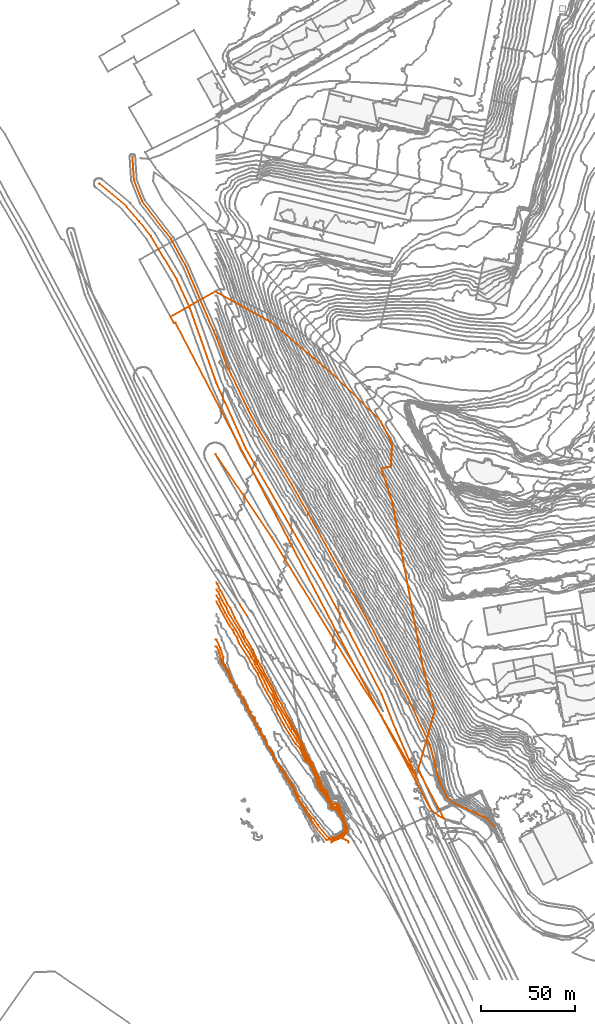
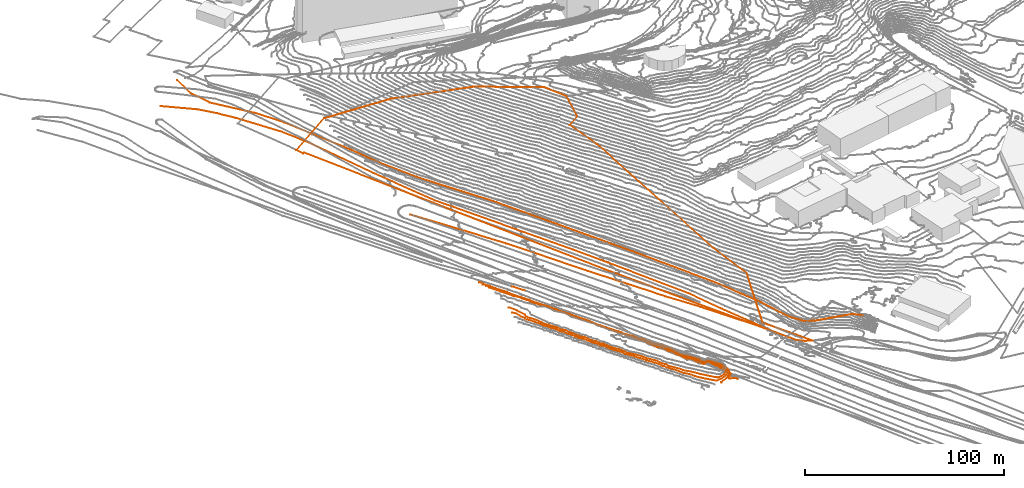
# Not in any storey, part 100 of 419: 9 proxies.
"""IFC2X3 model written with IfcOpenShell, lengths in metres."""

from ifc_helpers import new_model, entity, si_unit, frame, origin_with_axes, place, context, subcontext, project, element, save


model = new_model("IFC2X3")

# Units and contexts
model_context = context("Model", 3, precision=1e-05, world=origin_with_axes())
body_context = subcontext(model_context, "Body", "Model", "MODEL_VIEW")
ifc_project = project(units=[si_unit("AREAUNIT", "SQUARE_METRE"), si_unit("LENGTHUNIT", "METRE")], contexts=[model_context])

# Proxies
proxy_1_placement = place(None, frame((-0.4079795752, 205.1976909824, 4.3), z_axis=(0.0, 0.0, 1.0), x_axis=(1.0, 0.0, 0.0)))
element("IfcBuildingElementProxy", 1, at=proxy_1_placement, Name="Route 145", ObjectType="NOTDEFINED", context=body_context, shape_type="GeometricCurveSet", body=[
    entity("IfcGeometricCurveSet", [entity("IfcPolyline", [entity("IfcCartesianPoint", [107.7, -173.3999999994, -3.0]), entity("IfcCartesianPoint", [88.2, -139.2000000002, -3.2]), entity("IfcCartesianPoint", [77.7, -122.5999999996, -3.2]), entity("IfcCartesianPoint", [54.5, -84.7000000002, -2.5]), entity("IfcCartesianPoint", [30.1, -44.5, -1.3]), entity("IfcCartesianPoint", [0.0, 0.0, 0.0])])]),
])
proxy_2_placement = place(None, frame((-44.6079795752, 363.1976909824, 6.4), z_axis=(0.0, 0.0, 1.0), x_axis=(1.0, 0.0, 0.0)))
element("IfcBuildingElementProxy", 2, at=proxy_2_placement, Name="Route 243", ObjectType="NOTDEFINED", context=body_context, shape_type="GeometricCurveSet", body=[
    entity("IfcGeometricCurveSet", [entity("IfcPolyline", [entity("IfcCartesianPoint", [192.7999999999, -356.5, 4.3]), entity("IfcCartesianPoint", [188.7999999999, -352.0999999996, 3.9]), entity("IfcCartesianPoint", [171.7999999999, -344.2999999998, 1.0]), entity("IfcCartesianPoint", [167.5, -340.8999999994, 0.2]), entity("IfcCartesianPoint", [163.2999999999, -332.3999999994, -0.7]), entity("IfcCartesianPoint", [158.2999999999, -312.7000000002, -1.9]), entity("IfcCartesianPoint", [153.2999999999, -302.0999999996, -1.6]), entity("IfcCartesianPoint", [146.6, -287.5, -1.1]), entity("IfcCartesianPoint", [125.0, -246.0, -0.6]), entity("IfcCartesianPoint", [84.8999999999, -174.2000000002, 1.0]), entity("IfcCartesianPoint", [67.7, -145.8999999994, 1.0]), entity("IfcCartesianPoint", [61.3999999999, -134.2000000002, 0.6]), entity("IfcCartesianPoint", [50.2, -110.5999999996, 0.4]), entity("IfcCartesianPoint", [45.0, -96.7000000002, 0.3]), entity("IfcCartesianPoint", [28.6, -58.3999999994, -0.5]), entity("IfcCartesianPoint", [20.5, -43.5, -1.0]), entity("IfcCartesianPoint", [5.2999999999, -23.7999999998, -1.1]), entity("IfcCartesianPoint", [0.7999999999, -12.3999999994, -0.7]), entity("IfcCartesianPoint", [0.0, 0.0, 0.0])])]),
])
proxy_3_placement = place(None, frame((12.5920204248, 125.0976909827, 4.1), z_axis=(0.0, 0.0, 1.0), x_axis=(1.0, 0.0, 0.0)))
element("IfcBuildingElementProxy", 3, at=proxy_3_placement, Name="Route 259", ObjectType="NOTDEFINED", context=body_context, shape_type="GeometricCurveSet", body=[
    entity("IfcGeometricCurveSet", [entity("IfcPolyline", [entity("IfcCartesianPoint", [3.9, -6.1000000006, -0.2]), entity("IfcCartesianPoint", [0.0, 0.0, 0.0])])]),
])
proxy_4_placement = place(None, frame((-62.4079795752, 349.0976909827, 5.3), z_axis=(0.0, 0.0, 1.0), x_axis=(1.0, 0.0, 0.0)))
element("IfcBuildingElementProxy", 4, at=proxy_4_placement, Name="Route 343", ObjectType="NOTDEFINED", context=body_context, shape_type="GeometricCurveSet", body=[
    entity("IfcGeometricCurveSet", [entity("IfcPolyline", [entity("IfcCartesianPoint", [169.7, -317.2999999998, -4.0]), entity("IfcCartesianPoint", [158.1, -290.9000000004, -3.4]), entity("IfcCartesianPoint", [150.4, -271.7000000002, -3.1]), entity("IfcCartesianPoint", [133.5, -239.1000000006, -2.5]), entity("IfcCartesianPoint", [118.1, -210.6000000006, -1.8]), entity("IfcCartesianPoint", [78.0, -140.7999999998, 0.2]), entity("IfcCartesianPoint", [62.5, -106.1000000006, 1.3]), entity("IfcCartesianPoint", [48.3, -66.0, 0.6]), entity("IfcCartesianPoint", [41.2, -50.6000000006, 0.5]), entity("IfcCartesianPoint", [27.6, -28.0, 0.1]), entity("IfcCartesianPoint", [21.3, -19.9000000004, 0.2]), entity("IfcCartesianPoint", [14.6, -12.2000000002, 0.3]), entity("IfcCartesianPoint", [0.0, 0.0, 0.0])])]),
])
proxy_5_placement = place(None, frame((-24.3679795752, 278.2576909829, 8.0833997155), z_axis=(0.0, 0.0, 1.0), x_axis=(1.0, 0.0, 0.0)))
element("IfcBuildingElementProxy", 5, at=proxy_5_placement, Name="Cadastre 333", ObjectType="NOTDEFINED", context=body_context, shape_type="GeometricCurveSet", body=[
    entity("IfcGeometricCurveSet", [entity("IfcPolyline", [entity("IfcCartesianPoint", [145.71, -267.25, -6.1291497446]), entity("IfcCartesianPoint", [142.33, -265.5099999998, -6.1435996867]), entity("IfcCartesianPoint", [139.41, -263.1200000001, -6.1381996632]), entity("IfcCartesianPoint", [138.96, -262.6600000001, -6.1493996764]), entity("IfcCartesianPoint", [137.0499999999, -259.3500000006, -6.1391587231]), entity("IfcCartesianPoint", [85.59, -162.2999999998, -4.974727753]), entity("IfcCartesianPoint", [2.62, -3.1299999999, -0.6892996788]), entity("IfcCartesianPoint", [1.87, -3.4000000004, -0.7351996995]), entity("IfcCartesianPoint", [0.0, 0.0, 0.0]), entity("IfcCartesianPoint", [23.73, 13.3599999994, 2.9734000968]), entity("IfcCartesianPoint", [53.16, -2.9000000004, 14.5035599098]), entity("IfcCartesianPoint", [85.45, -29.9300000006, 26.9580999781]), entity("IfcCartesianPoint", [111.77, -55.46, 33.1515209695]), entity("IfcCartesianPoint", [117.99, -67.54, 32.6147275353]), entity("IfcCartesianPoint", [117.23, -79.71, 28.1260055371]), entity("IfcCartesianPoint", [112.16, -80.7599999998, 25.0662007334]), entity("IfcCartesianPoint", [117.09, -95.7300000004, 22.2285763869]), entity("IfcCartesianPoint", [117.78, -98.1800000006, 21.7934481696]), entity("IfcCartesianPoint", [118.3199999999, -100.04, 21.4766641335]), entity("IfcCartesianPoint", [130.16, -164.0099999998, 9.9749004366]), entity("IfcCartesianPoint", [134.4, -186.9500000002, 5.8360002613]), entity("IfcCartesianPoint", [140.52, -209.9500000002, 2.1697885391]), entity("IfcCartesianPoint", [131.6899999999, -241.0600000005, -6.1054596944]), entity("IfcCartesianPoint", [145.71, -267.25, -6.1291497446])])]),
])
proxy_6_placement = place(None, frame((-0.4079795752, 106.3804492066, 7.0), z_axis=(0.0, 0.0, 1.0), x_axis=(1.0, 0.0, 0.0)))
element("IfcBuildingElementProxy", 6, at=proxy_6_placement, Name="Contour 7.0 m", ObjectType="NOTDEFINED", context=body_context, shape_type="GeometricCurveSet", body=[
    entity("IfcGeometricCurveSet", [entity("IfcPolyline", [entity("IfcCartesianPoint", [0.0, 20.1536054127, 0.0]), entity("IfcCartesianPoint", [0.5, 20.1536054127, 0.0]), entity("IfcCartesianPoint", [7.3541663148, 7.517241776, 0.0]), entity("IfcCartesianPoint", [9.1181818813, 5.517241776, 0.0]), entity("IfcCartesianPoint", [9.8953487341, 3.517241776, 0.0]), entity("IfcCartesianPoint", [11.5, 1.1172421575, 0.0]), entity("IfcCartesianPoint", [12.5, -1.8531282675, 0.0]), entity("IfcCartesianPoint", [17.5, -9.4221522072, 0.0]), entity("IfcCartesianPoint", [20.727272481, -15.482758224, 0.0]), entity("IfcCartesianPoint", [22.5, -17.944296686, 0.0]), entity("IfcCartesianPoint", [25.2358491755, -24.482758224, 0.0]), entity("IfcCartesianPoint", [30.9487179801, -34.482758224, 0.0]), entity("IfcCartesianPoint", [32.1507937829, -37.482758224, 0.0]), entity("IfcCartesianPoint", [36.4166664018, -45.482758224, 0.0]), entity("IfcCartesianPoint", [42.6896554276, -55.482758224, 0.0]), entity("IfcCartesianPoint", [44.7698413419, -57.482758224, 0.0]), entity("IfcCartesianPoint", [47.9403669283, -64.482758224, 0.0]), entity("IfcCartesianPoint", [50.5, -66.779054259, 0.0]), entity("IfcCartesianPoint", [53.5166667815, -73.482758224, 0.0]), entity("IfcCartesianPoint", [54.2913669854, -77.482758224, 0.0]), entity("IfcCartesianPoint", [55.2862593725, -79.482758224, 0.0]), entity("IfcCartesianPoint", [58.5, -83.1560255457, 0.0]), entity("IfcCartesianPoint", [59.5728155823, -85.482758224, 0.0]), entity("IfcCartesianPoint", [61.0433071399, -87.482758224, 0.0]), entity("IfcCartesianPoint", [61.2068963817, -89.482758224, 0.0]), entity("IfcCartesianPoint", [62.5, -90.2198271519, 0.0]), entity("IfcCartesianPoint", [63.5, -89.9358194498, 0.0]), entity("IfcCartesianPoint", [64.1411483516, -90.482758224, 0.0]), entity("IfcCartesianPoint", [66.8675674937, -94.482758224, 0.0]), entity("IfcCartesianPoint", [68.3237082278, -97.482758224, 0.0]), entity("IfcCartesianPoint", [68.731884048, -101.482758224, 0.0]), entity("IfcCartesianPoint", [65.1904759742, -104.482758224, 0.0]), entity("IfcCartesianPoint", [63.5, -105.2996594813, 0.0]), entity("IfcCartesianPoint", [61.5, -105.6913913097, 0.0]), entity("IfcCartesianPoint", [60.4999975, -105.482758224, 0.0]), entity("IfcCartesianPoint", [59.5, -104.728041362, 0.0]), entity("IfcCartesianPoint", [54.5, -98.607758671, 0.0]), entity("IfcCartesianPoint", [52.3070173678, -95.482758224, 0.0]), entity("IfcCartesianPoint", [48.7575759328, -91.482758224, 0.0]), entity("IfcCartesianPoint", [47.7736843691, -89.482758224, 0.0]), entity("IfcCartesianPoint", [44.2844310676, -84.482758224, 0.0]), entity("IfcCartesianPoint", [43.7264152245, -82.482758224, 0.0]), entity("IfcCartesianPoint", [42.7857144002, -81.482758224, 0.0]), entity("IfcCartesianPoint", [41.2499999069, -77.482758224, 0.0]), entity("IfcCartesianPoint", [38.2151163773, -73.482758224, 0.0]), entity("IfcCartesianPoint", [36.7882351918, -70.482758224, 0.0]), entity("IfcCartesianPoint", [34.7356321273, -67.482758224, 0.0]), entity("IfcCartesianPoint", [32.2331787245, -64.482758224, 0.0]), entity("IfcCartesianPoint", [30.0222671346, -59.482758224, 0.0]), entity("IfcCartesianPoint", [27.1883117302, -55.482758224, 0.0]), entity("IfcCartesianPoint", [27.1005916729, -54.482758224, 0.0]), entity("IfcCartesianPoint", [26.0198556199, -52.482758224, 0.0]), entity("IfcCartesianPoint", [25.828947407, -51.482758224, 0.0]), entity("IfcCartesianPoint", [24.5, -50.2932157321, 0.0]), entity("IfcCartesianPoint", [23.5445860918, -47.482758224, 0.0]), entity("IfcCartesianPoint", [22.3169398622, -46.482758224, 0.0]), entity("IfcCartesianPoint", [20.2704917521, -41.482758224, 0.0]), entity("IfcCartesianPoint", [18.257946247, -39.482758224, 0.0]), entity("IfcCartesianPoint", [18.6658032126, -38.482758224, 0.0]), entity("IfcCartesianPoint", [17.5, -37.4757158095, 0.0]), entity("IfcCartesianPoint", [16.9339622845, -35.482758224, 0.0]), entity("IfcCartesianPoint", [15.5362320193, -33.482758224, 0.0]), entity("IfcCartesianPoint", [15.0450642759, -31.482758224, 0.0]), entity("IfcCartesianPoint", [13.1000000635, -29.482758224, 0.0]), entity("IfcCartesianPoint", [12.7959183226, -27.482758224, 0.0]), entity("IfcCartesianPoint", [11.0867768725, -25.482758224, 0.0]), entity("IfcCartesianPoint", [10.2204611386, -23.482758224, 0.0]), entity("IfcCartesianPoint", [8.5, -21.2054473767, 0.0]), entity("IfcCartesianPoint", [8.1125000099, -19.482758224, 0.0]), entity("IfcCartesianPoint", [6.7651515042, -16.482758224, 0.0]), entity("IfcCartesianPoint", [5.0838926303, -13.482758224, 0.0]), entity("IfcCartesianPoint", [4.199999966, -12.482758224, 0.0]), entity("IfcCartesianPoint", [4.0044248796, -11.482758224, 0.0]), entity("IfcCartesianPoint", [4.1623375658, -9.482758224, 0.0]), entity("IfcCartesianPoint", [2.606060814, -4.482758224, 0.0]), entity("IfcCartesianPoint", [0.5, 0.0, 0.0]), entity("IfcCartesianPoint", [0.0, 0.0, 0.0])])]),
])
proxy_7_placement = place(None, frame((-0.4079795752, 102.8245197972, 6.0), z_axis=(0.0, 0.0, 1.0), x_axis=(1.0, 0.0, 0.0)))
element("IfcBuildingElementProxy", 7, at=proxy_7_placement, Name="Contour 6.0 m", ObjectType="NOTDEFINED", context=body_context, shape_type="GeometricCurveSet", body=[
    entity("IfcGeometricCurveSet", [entity("IfcPolyline", [entity("IfcCartesianPoint", [0.0, 27.0481706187, 0.0]), entity("IfcCartesianPoint", [0.5, 27.0481706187, 0.0]), entity("IfcCartesianPoint", [1.7537314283, 25.0731711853, 0.0]), entity("IfcCartesianPoint", [2.9788734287, 22.0731711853, 0.0]), entity("IfcCartesianPoint", [5.1612901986, 18.0731711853, 0.0]), entity("IfcCartesianPoint", [8.5, 12.2667194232, 0.0]), entity("IfcCartesianPoint", [10.683333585, 9.0731711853, 0.0]), entity("IfcCartesianPoint", [15.4137928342, 0.0731711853, 0.0]), entity("IfcCartesianPoint", [17.6250003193, -2.9268288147, 0.0]), entity("IfcCartesianPoint", [19.1612901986, -5.9268288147, 0.0]), entity("IfcCartesianPoint", [20.5, -7.820445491, 0.0]), entity("IfcCartesianPoint", [21.2464791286, -9.9268288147, 0.0]), entity("IfcCartesianPoint", [24.2631580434, -14.9268288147, 0.0]), entity("IfcCartesianPoint", [28.0357142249, -22.9268288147, 0.0]), entity("IfcCartesianPoint", [30.0689654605, -25.9268288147, 0.0]), entity("IfcCartesianPoint", [32.6940299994, -31.9268288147, 0.0]), entity("IfcCartesianPoint", [34.5, -34.6621226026, 0.0]), entity("IfcCartesianPoint", [38.875000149, -42.9268288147, 0.0]), entity("IfcCartesianPoint", [42.7835821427, -48.9268288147, 0.0]), entity("IfcCartesianPoint", [43.62244892, -50.9268288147, 0.0]), entity("IfcCartesianPoint", [45.6130952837, -52.9268288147, 0.0]), entity("IfcCartesianPoint", [46.2777776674, -55.9268288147, 0.0]), entity("IfcCartesianPoint", [47.5620690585, -57.9268288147, 0.0]), entity("IfcCartesianPoint", [48.272058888, -59.9268288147, 0.0]), entity("IfcCartesianPoint", [48.8749998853, -60.9268288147, 0.0]), entity("IfcCartesianPoint", [50.5, -62.1817308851, 0.0]), entity("IfcCartesianPoint", [52.0118482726, -65.9268288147, 0.0]), entity("IfcCartesianPoint", [53.6290323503, -68.9268288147, 0.0]), entity("IfcCartesianPoint", [54.0722222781, -69.9268288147, 0.0]), entity("IfcCartesianPoint", [54.0333333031, -70.9268288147, 0.0]), entity("IfcCartesianPoint", [55.5, -75.0268287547, 0.0]), entity("IfcCartesianPoint", [58.6684211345, -78.9268288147, 0.0]), entity("IfcCartesianPoint", [60.058252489, -81.9268288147, 0.0]), entity("IfcCartesianPoint", [61.4370079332, -83.9268288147, 0.0]), entity("IfcCartesianPoint", [61.9083332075, -85.9268288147, 0.0]), entity("IfcCartesianPoint", [62.5, -86.2328632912, 0.0]), entity("IfcCartesianPoint", [64.0238100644, -85.9268288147, 0.0]), entity("IfcCartesianPoint", [64.5, -85.4005136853, 0.0]), entity("IfcCartesianPoint", [65.5, -88.2179680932, 0.0]), entity("IfcCartesianPoint", [67.4081080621, -90.9268288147, 0.0]), entity("IfcCartesianPoint", [67.4340101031, -91.9268288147, 0.0]), entity("IfcCartesianPoint", [68.6012048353, -93.9268288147, 0.0]), entity("IfcCartesianPoint", [69.2149757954, -97.9268288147, 0.0]), entity("IfcCartesianPoint", [68.5, -99.108646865, 0.0]), entity("IfcCartesianPoint", [65.5, -101.5049537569, 0.0]), entity("IfcCartesianPoint", [62.5, -102.7473416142, 0.0]), entity("IfcCartesianPoint", [59.1470588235, -102.9268288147, 0.0]), entity("IfcCartesianPoint", [53.9181817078, -96.9268288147, 0.0]), entity("IfcCartesianPoint", [51.5, -93.3434955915, 0.0]), entity("IfcCartesianPoint", [50.8863637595, -91.9268288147, 0.0]), entity("IfcCartesianPoint", [48.5, -88.8594131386, 0.0]), entity("IfcCartesianPoint", [45.1325301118, -82.9268288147, 0.0]), entity("IfcCartesianPoint", [43.6856286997, -80.9268288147, 0.0]), entity("IfcCartesianPoint", [42.9621850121, -78.9268288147, 0.0]), entity("IfcCartesianPoint", [42.0975610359, -77.9268288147, 0.0]), entity("IfcCartesianPoint", [41.5666667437, -75.9268288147, 0.0]), entity("IfcCartesianPoint", [40.4716312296, -73.9268288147, 0.0]), entity("IfcCartesianPoint", [37.6337209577, -69.9268288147, 0.0]), entity("IfcCartesianPoint", [36.5, -67.4317794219, 0.0]), entity("IfcCartesianPoint", [35.27297292, -65.9268288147, 0.0]), entity("IfcCartesianPoint", [34.2255813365, -63.9268288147, 0.0]), entity("IfcCartesianPoint", [31.3205128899, -59.9268288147, 0.0]), entity("IfcCartesianPoint", [30.1823104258, -56.9268288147, 0.0]), entity("IfcCartesianPoint", [26.9285714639, -51.9268288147, 0.0]), entity("IfcCartesianPoint", [26.8047337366, -50.9268288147, 0.0]), entity("IfcCartesianPoint", [26.110344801, -49.9268288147, 0.0]), entity("IfcCartesianPoint", [25.3913043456, -47.9268288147, 0.0]), entity("IfcCartesianPoint", [24.2300380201, -46.9268288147, 0.0]), entity("IfcCartesianPoint", [23.6523437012, -44.9268288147, 0.0]), entity("IfcCartesianPoint", [22.0437158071, -42.9268288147, 0.0]), entity("IfcCartesianPoint", [19.7240436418, -37.9268288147, 0.0]), entity("IfcCartesianPoint", [18.0134474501, -35.9268288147, 0.0]), entity("IfcCartesianPoint", [18.1777251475, -34.9268288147, 0.0]), entity("IfcCartesianPoint", [17.0619469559, -33.9268288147, 0.0]), entity("IfcCartesianPoint", [16.5566038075, -31.9268288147, 0.0]), entity("IfcCartesianPoint", [15.0833333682, -29.9268288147, 0.0]), entity("IfcCartesianPoint", [14.6158798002, -27.9268288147, 0.0]), entity("IfcCartesianPoint", [12.7666667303, -25.9268288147, 0.0]), entity("IfcCartesianPoint", [12.3055555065, -23.9268288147, 0.0]), entity("IfcCartesianPoint", [10.5, -21.6541014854, 0.0]), entity("IfcCartesianPoint", [9.9322766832, -19.9268288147, 0.0]), entity("IfcCartesianPoint", [8.2563636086, -17.9268288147, 0.0]), entity("IfcCartesianPoint", [7.6958332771, -15.9268288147, 0.0]), entity("IfcCartesianPoint", [6.1242774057, -12.9268288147, 0.0]), entity("IfcCartesianPoint", [4.5, -10.0853655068, 0.0]), entity("IfcCartesianPoint", [3.4857143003, -8.9268288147, 0.0]), entity("IfcCartesianPoint", [3.2074830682, -7.9268288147, 0.0]), entity("IfcCartesianPoint", [3.3376067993, -6.9268288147, 0.0]), entity("IfcCartesianPoint", [2.2941177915, -4.9268288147, 0.0]), entity("IfcCartesianPoint", [1.6388887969, -1.9268288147, 0.0]), entity("IfcCartesianPoint", [0.5, 0.0, 0.0]), entity("IfcCartesianPoint", [0.0, 0.0, 0.0])])]),
])
proxy_8_placement = place(None, frame((-0.4079795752, 136.7438451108, 4.0), z_axis=(0.0, 0.0, 1.0), x_axis=(1.0, 0.0, 0.0)))
element("IfcBuildingElementProxy", 8, at=proxy_8_placement, Name="Contour 4.0 m", ObjectType="NOTDEFINED", context=body_context, shape_type="GeometricCurveSet", body=[
    entity("IfcGeometricCurveSet", [entity("IfcPolyline", [entity("IfcCartesianPoint", [0.0, 0.0, 0.0]), entity("IfcCartesianPoint", [0.5, 0.0, 0.0]), entity("IfcCartesianPoint", [1.0789478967, -0.8461541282, 0.0]), entity("IfcCartesianPoint", [2.318181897, -3.8461541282, 0.0]), entity("IfcCartesianPoint", [3.1274510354, -4.8461541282, 0.0]), entity("IfcCartesianPoint", [6.172727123, -10.8461541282, 0.0]), entity("IfcCartesianPoint", [8.0862069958, -13.8461541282, 0.0]), entity("IfcCartesianPoint", [10.2931036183, -18.8461541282, 0.0]), entity("IfcCartesianPoint", [14.5447764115, -25.8461541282, 0.0]), entity("IfcCartesianPoint", [15.5, -28.3461521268, 0.0]), entity("IfcCartesianPoint", [19.923912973, -35.8461541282, 0.0]), entity("IfcCartesianPoint", [22.6182797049, -41.8461541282, 0.0]), entity("IfcCartesianPoint", [24.5, -44.6961542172, 0.0]), entity("IfcCartesianPoint", [27.6375001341, -50.8461541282, 0.0]), entity("IfcCartesianPoint", [30.5930231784, -55.8461541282, 0.0]), entity("IfcCartesianPoint", [33.3873240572, -61.8461541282, 0.0]), entity("IfcCartesianPoint", [35.27966088, -64.8461541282, 0.0]), entity("IfcCartesianPoint", [36.1029411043, -66.8461541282, 0.0]), entity("IfcCartesianPoint", [40.5, -74.6497253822, 0.0]), entity("IfcCartesianPoint", [41.5, -77.2847504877, 0.0]), entity("IfcCartesianPoint", [42.7266667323, -78.8461541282, 0.0]), entity("IfcCartesianPoint", [46.7802198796, -86.8461541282, 0.0]), entity("IfcCartesianPoint", [47.3200000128, -88.8461541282, 0.0]), entity("IfcCartesianPoint", [48.9848484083, -91.8461541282, 0.0]), entity("IfcCartesianPoint", [49.7352942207, -93.8461541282, 0.0]), entity("IfcCartesianPoint", [51.3743718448, -95.8461541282, 0.0]), entity("IfcCartesianPoint", [52.9825870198, -99.8461541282, 0.0]), entity("IfcCartesianPoint", [55.172131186, -103.8461541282, 0.0]), entity("IfcCartesianPoint", [55.2338130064, -104.8461541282, 0.0]), entity("IfcCartesianPoint", [55.8566434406, -105.8461541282, 0.0]), entity("IfcCartesianPoint", [56.8059700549, -108.8461541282, 0.0]), entity("IfcCartesianPoint", [57.5, -109.9449196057, 0.0]), entity("IfcCartesianPoint", [59.0061726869, -110.8461541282, 0.0]), entity("IfcCartesianPoint", [60.5, -114.7755659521, 0.0]), entity("IfcCartesianPoint", [62.4199999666, -117.8461541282, 0.0]), entity("IfcCartesianPoint", [62.5, -118.6080582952, 0.0]), entity("IfcCartesianPoint", [62.9848485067, -117.8461541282, 0.0]), entity("IfcCartesianPoint", [63.5, -117.7056582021, 0.0]), entity("IfcCartesianPoint", [65.5, -117.9585135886, 0.0]), entity("IfcCartesianPoint", [66.2678571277, -119.8461541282, 0.0]), entity("IfcCartesianPoint", [66.2948718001, -120.8461541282, 0.0]), entity("IfcCartesianPoint", [67.1653061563, -122.8461541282, 0.0]), entity("IfcCartesianPoint", [67.9220962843, -123.8461541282, 0.0]), entity("IfcCartesianPoint", [68.1678831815, -124.8461541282, 0.0]), entity("IfcCartesianPoint", [67.9728260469, -125.8461541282, 0.0]), entity("IfcCartesianPoint", [69.0831325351, -127.8461541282, 0.0]), entity("IfcCartesianPoint", [70.2047619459, -130.8461541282, 0.0]), entity("IfcCartesianPoint", [70.0529411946, -132.8461541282, 0.0]), entity("IfcCartesianPoint", [67.427536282, -135.8461541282, 0.0]), entity("IfcCartesianPoint", [67.5, -136.1239315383, 0.0]), entity("IfcCartesianPoint", [69.5, -136.8774041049, 0.0]), entity("IfcCartesianPoint", [70.5, -137.5961543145, 0.0]), entity("IfcCartesianPoint", [70.7666664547, -138.3461541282, 0.0])])]),
])
proxy_9_placement = place(None, frame((-0.4079795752, 132.9691194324, 5.0), z_axis=(0.0, 0.0, 1.0), x_axis=(1.0, 0.0, 0.0)))
element("IfcBuildingElementProxy", 9, at=proxy_9_placement, Name="Contour 5.0 m", ObjectType="NOTDEFINED", context=body_context, shape_type="GeometricCurveSet", body=[
    entity("IfcGeometricCurveSet", [entity("IfcPolyline", [entity("IfcCartesianPoint", [0.0, 0.0, 0.0]), entity("IfcCartesianPoint", [0.5, 0.0, 0.0]), entity("IfcCartesianPoint", [1.5, -1.3294927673, 0.0]), entity("IfcCartesianPoint", [3.7142855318, -6.0714284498, 0.0]), entity("IfcCartesianPoint", [5.6372551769, -9.0714284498, 0.0]), entity("IfcCartesianPoint", [6.8478257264, -12.0714284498, 0.0]), entity("IfcCartesianPoint", [12.5153849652, -21.0714284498, 0.0]), entity("IfcCartesianPoint", [14.3813556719, -25.0714284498, 0.0]), entity("IfcCartesianPoint", [16.6639342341, -29.0714284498, 0.0]), entity("IfcCartesianPoint", [18.7650600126, -32.0714284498, 0.0]), entity("IfcCartesianPoint", [22.0454546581, -39.0714284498, 0.0]), entity("IfcCartesianPoint", [30.5, -54.1904765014, 0.0]), entity("IfcCartesianPoint", [32.0747127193, -58.0714284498, 0.0]), entity("IfcCartesianPoint", [34.186567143, -62.0714284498, 0.0]), entity("IfcCartesianPoint", [39.5, -70.8314286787, 0.0]), entity("IfcCartesianPoint", [40.7989690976, -74.0714284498, 0.0]), entity("IfcCartesianPoint", [41.819587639, -75.0714284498, 0.0]), entity("IfcCartesianPoint", [46.2083334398, -83.0714284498, 0.0]), entity("IfcCartesianPoint", [47.0230769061, -86.0714284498, 0.0]), entity("IfcCartesianPoint", [48.2517240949, -88.0714284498, 0.0]), entity("IfcCartesianPoint", [49.0036497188, -90.0714284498, 0.0]), entity("IfcCartesianPoint", [50.8718592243, -92.0714284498, 0.0]), entity("IfcCartesianPoint", [52.485781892, -96.0714284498, 0.0]), entity("IfcCartesianPoint", [54.6256830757, -100.0714284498, 0.0]), entity("IfcCartesianPoint", [54.5143884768, -101.0714284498, 0.0]), entity("IfcCartesianPoint", [55.1549296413, -102.0714284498, 0.0]), entity("IfcCartesianPoint", [56.1092714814, -105.0714284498, 0.0]), entity("IfcCartesianPoint", [58.5, -107.8796478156, 0.0]), entity("IfcCartesianPoint", [60.5436893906, -112.0714284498, 0.0]), entity("IfcCartesianPoint", [61.9200000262, -114.0714284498, 0.0]), entity("IfcCartesianPoint", [62.0497630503, -115.0714284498, 0.0]), entity("IfcCartesianPoint", [62.5, -115.8375574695, 0.0]), entity("IfcCartesianPoint", [63.5, -115.5116799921, 0.0]), entity("IfcCartesianPoint", [64.5, -114.5297618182, 0.0]), entity("IfcCartesianPoint", [65.5, -115.2972349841, 0.0]), entity("IfcCartesianPoint", [65.8675214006, -117.0714284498, 0.0]), entity("IfcCartesianPoint", [66.5218977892, -118.0714284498, 0.0]), entity("IfcCartesianPoint", [66.7571428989, -119.0714284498, 0.0]), entity("IfcCartesianPoint", [67.6388101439, -120.0714284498, 0.0]), entity("IfcCartesianPoint", [67.7010869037, -122.0714284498, 0.0]), entity("IfcCartesianPoint", [68.8421686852, -124.0714284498, 0.0]), entity("IfcCartesianPoint", [69.728571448, -127.0714284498, 0.0]), entity("IfcCartesianPoint", [69.6952380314, -128.0714284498, 0.0]), entity("IfcCartesianPoint", [69.4538461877, -129.0714284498, 0.0]), entity("IfcCartesianPoint", [67.3899998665, -131.0714284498, 0.0]), entity("IfcCartesianPoint", [65.5, -132.5714295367, 0.0]), entity("IfcCartesianPoint", [61.6333331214, -134.0714284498, 0.0]), entity("IfcCartesianPoint", [61.6333331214, -134.5714284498, 0.0])])]),
])

save(model, "model.ifc")
